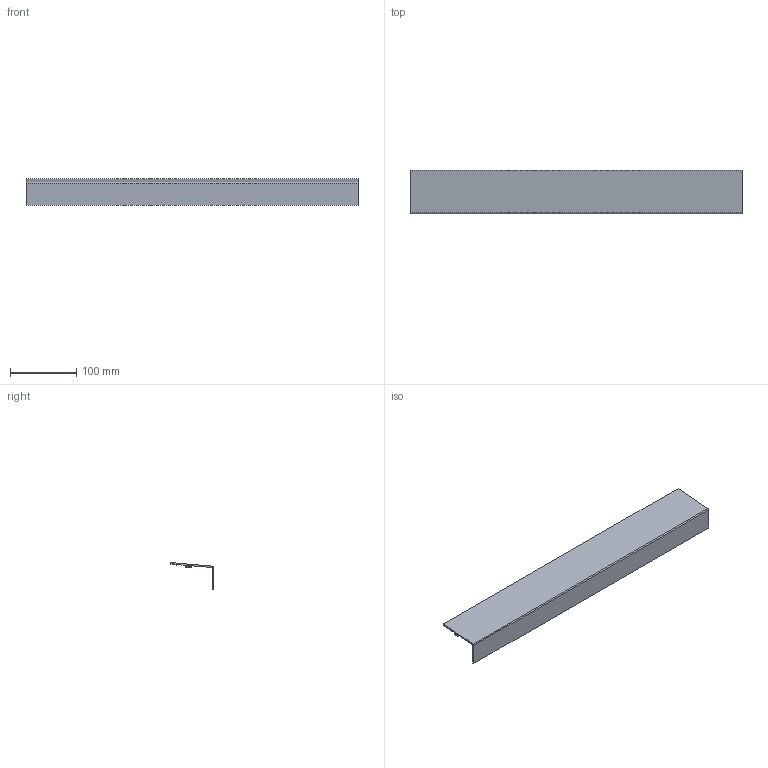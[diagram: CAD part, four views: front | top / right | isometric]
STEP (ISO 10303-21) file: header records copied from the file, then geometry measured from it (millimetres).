
FILE_DESCRIPTION(('FreeCAD Model'),'2;1');
FILE_NAME('Open CASCADE Shape Model','2024-10-24T12:05:57',('Author'),( ''),'Open CASCADE STEP processor 7.6','FreeCAD','Unknown');
FILE_SCHEMA(('AUTOMOTIVE_DESIGN { 1 0 10303 214 1 1 1 1 }'));
Length unit declared in the file: millimetre
Products named in the file (1): _88_3D
Bounding box: 500 x 65 x 40.46 mm (x, y, z)
Volume: 112575.9 mm3; surface area: 110263.9 mm2
Topology: 1 solids, 1 shells, 71 faces, 207 edges, 138 vertices
Faces by surface type: bspline 71
Entity records: 6522 total; most frequent: CARTESIAN_POINT 3381, ORIENTED_EDGE 414, PCURVE 414, DEFINITIONAL_REPRESENTATION 414, B_SPLINE_CURVE_WITH_KNOTS 281, DIRECTION 266, LINE 264, VECTOR 264
